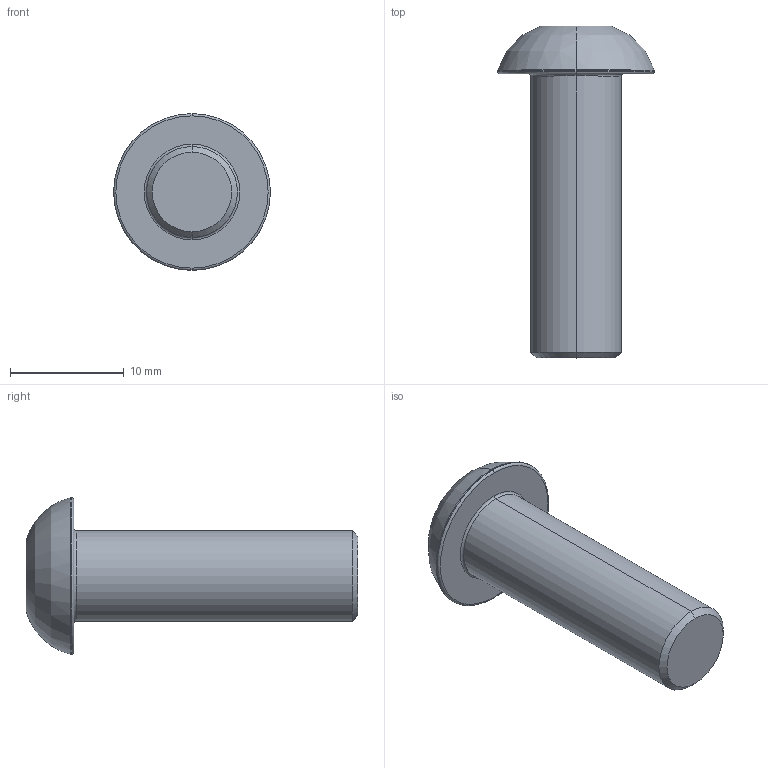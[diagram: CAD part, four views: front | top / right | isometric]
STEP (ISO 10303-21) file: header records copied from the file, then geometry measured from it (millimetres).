
FILE_DESCRIPTION (( 'STEP AP203' ), '1' );
FILE_NAME ('LGDD-TD-M8x25.STEP', '2026-08-14T02:01:17', ( '' ), ( '' ), 'SwSTEP 2.0', 'SolidWorks 2020', '' );
FILE_SCHEMA (( 'CONFIG_CONTROL_DESIGN' ));
Length unit declared in the file: millimetre
Products named in the file (1): LGDD-TD-M8x25
Bounding box: 13.8 x 29.2 x 13.8 mm (x, y, z)
Volume: 1630.3 mm3; surface area: 1058.3 mm2
Topology: 1 solids, 1 shells, 31 faces, 59 edges, 32 vertices
Faces by surface type: plane 10, cone 9, torus 8, cylinder 4
Entity records: 860 total; most frequent: CARTESIAN_POINT 150, DIRECTION 149, ORIENTED_EDGE 118, AXIS2_PLACEMENT_3D 65, EDGE_CURVE 59, EDGE_LOOP 33, CIRCLE 33, VERTEX_POINT 32
